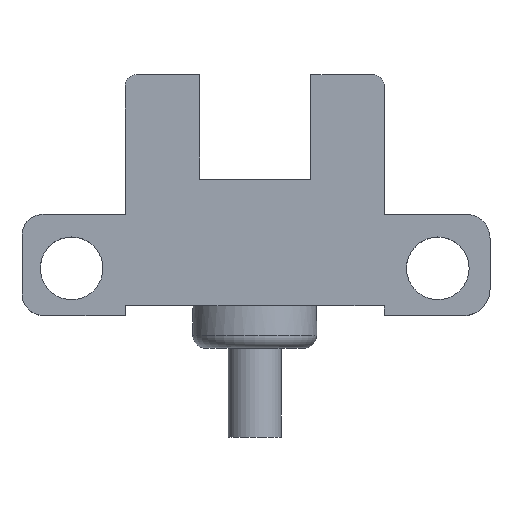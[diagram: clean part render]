
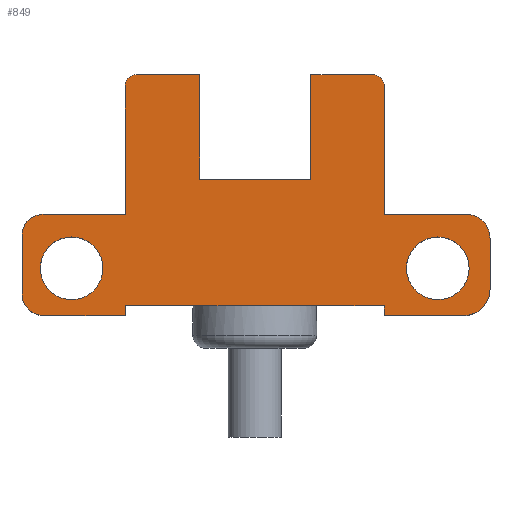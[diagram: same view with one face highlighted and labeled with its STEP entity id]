
A CAD part, top view. The second image highlights one B-rep face of the part: STEP entity #849.
In plain terms, the highlighted planar face has unit normal (0, 0, 1).
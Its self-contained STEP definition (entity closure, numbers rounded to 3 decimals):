
#34=CIRCLE('',#873,0.572);
#36=CIRCLE('',#878,1.074);
#38=CIRCLE('',#882,1.114);
#40=CIRCLE('',#889,1.345);
#42=CIRCLE('',#893,1.207);
#44=CIRCLE('',#898,0.603);
#45=CIRCLE('',#900,1.6);
#47=CIRCLE('',#903,1.6);
#151=ORIENTED_EDGE('',*,*,#289,.T.);
#152=ORIENTED_EDGE('',*,*,#287,.T.);
#153=ORIENTED_EDGE('',*,*,#229,.T.);
#154=ORIENTED_EDGE('',*,*,#233,.T.);
#155=ORIENTED_EDGE('',*,*,#236,.T.);
#156=ORIENTED_EDGE('',*,*,#239,.T.);
#157=ORIENTED_EDGE('',*,*,#242,.T.);
#158=ORIENTED_EDGE('',*,*,#245,.T.);
#159=ORIENTED_EDGE('',*,*,#248,.T.);
#160=ORIENTED_EDGE('',*,*,#251,.T.);
#161=ORIENTED_EDGE('',*,*,#254,.T.);
#162=ORIENTED_EDGE('',*,*,#257,.T.);
#163=ORIENTED_EDGE('',*,*,#260,.T.);
#164=ORIENTED_EDGE('',*,*,#262,.T.);
#165=ORIENTED_EDGE('',*,*,#221,.T.);
#166=ORIENTED_EDGE('',*,*,#293,.T.);
#167=ORIENTED_EDGE('',*,*,#226,.T.);
#168=ORIENTED_EDGE('',*,*,#265,.T.);
#169=ORIENTED_EDGE('',*,*,#268,.T.);
#170=ORIENTED_EDGE('',*,*,#271,.T.);
#171=ORIENTED_EDGE('',*,*,#274,.T.);
#172=ORIENTED_EDGE('',*,*,#277,.T.);
#173=ORIENTED_EDGE('',*,*,#280,.T.);
#174=ORIENTED_EDGE('',*,*,#283,.T.);
#175=ORIENTED_EDGE('',*,*,#286,.T.);
#176=ORIENTED_EDGE('',*,*,#292,.T.);
#221=EDGE_CURVE('',#304,#303,#358,.T.);
#226=EDGE_CURVE('',#305,#308,#362,.T.);
#229=EDGE_CURVE('',#312,#311,#365,.T.);
#233=EDGE_CURVE('',#311,#314,#369,.T.);
#236=EDGE_CURVE('',#314,#316,#372,.T.);
#239=EDGE_CURVE('',#316,#318,#375,.T.);
#242=EDGE_CURVE('',#318,#320,#34,.T.);
#245=EDGE_CURVE('',#320,#322,#379,.T.);
#248=EDGE_CURVE('',#322,#324,#382,.T.);
#251=EDGE_CURVE('',#324,#326,#36,.T.);
#254=EDGE_CURVE('',#326,#328,#386,.T.);
#257=EDGE_CURVE('',#328,#330,#38,.T.);
#260=EDGE_CURVE('',#330,#332,#390,.T.);
#262=EDGE_CURVE('',#332,#304,#392,.T.);
#265=EDGE_CURVE('',#308,#334,#395,.T.);
#268=EDGE_CURVE('',#334,#336,#398,.T.);
#271=EDGE_CURVE('',#336,#338,#40,.T.);
#274=EDGE_CURVE('',#338,#340,#402,.T.);
#277=EDGE_CURVE('',#340,#342,#42,.T.);
#280=EDGE_CURVE('',#342,#344,#406,.T.);
#283=EDGE_CURVE('',#344,#346,#409,.T.);
#286=EDGE_CURVE('',#346,#348,#44,.T.);
#287=EDGE_CURVE('',#349,#349,#45,.T.);
#289=EDGE_CURVE('',#351,#351,#47,.T.);
#292=EDGE_CURVE('',#348,#312,#412,.T.);
#293=EDGE_CURVE('',#303,#305,#413,.T.);
#303=VERTEX_POINT('',#1103);
#304=VERTEX_POINT('',#1105);
#305=VERTEX_POINT('',#1109);
#308=VERTEX_POINT('',#1114);
#311=VERTEX_POINT('',#1121);
#312=VERTEX_POINT('',#1123);
#314=VERTEX_POINT('',#1129);
#316=VERTEX_POINT('',#1135);
#318=VERTEX_POINT('',#1141);
#320=VERTEX_POINT('',#1147);
#322=VERTEX_POINT('',#1153);
#324=VERTEX_POINT('',#1159);
#326=VERTEX_POINT('',#1165);
#328=VERTEX_POINT('',#1171);
#330=VERTEX_POINT('',#1177);
#332=VERTEX_POINT('',#1183);
#334=VERTEX_POINT('',#1192);
#336=VERTEX_POINT('',#1198);
#338=VERTEX_POINT('',#1204);
#340=VERTEX_POINT('',#1210);
#342=VERTEX_POINT('',#1216);
#344=VERTEX_POINT('',#1222);
#346=VERTEX_POINT('',#1228);
#348=VERTEX_POINT('',#1234);
#349=VERTEX_POINT('',#1238);
#351=VERTEX_POINT('',#1243);
#358=LINE('',#1104,#416);
#362=LINE('',#1115,#420);
#365=LINE('',#1122,#423);
#369=LINE('',#1130,#427);
#372=LINE('',#1136,#430);
#375=LINE('',#1142,#433);
#379=LINE('',#1154,#437);
#382=LINE('',#1160,#440);
#386=LINE('',#1172,#444);
#390=LINE('',#1184,#448);
#392=LINE('',#1187,#450);
#395=LINE('',#1193,#453);
#398=LINE('',#1199,#456);
#402=LINE('',#1211,#460);
#406=LINE('',#1223,#464);
#409=LINE('',#1229,#467);
#412=LINE('',#1248,#470);
#413=LINE('',#1250,#471);
#416=VECTOR('',#928,1000.);
#420=VECTOR('',#936,1000.);
#423=VECTOR('',#941,1000.);
#427=VECTOR('',#947,1000.);
#430=VECTOR('',#952,1000.);
#433=VECTOR('',#957,1000.);
#437=VECTOR('',#969,1000.);
#440=VECTOR('',#974,1000.);
#444=VECTOR('',#986,1000.);
#448=VECTOR('',#998,1000.);
#450=VECTOR('',#1002,1000.);
#453=VECTOR('',#1007,1000.);
#456=VECTOR('',#1012,1000.);
#460=VECTOR('',#1024,1000.);
#464=VECTOR('',#1036,1000.);
#467=VECTOR('',#1041,1000.);
#470=VECTOR('',#1064,1000.);
#471=VECTOR('',#1067,1000.);
#500=EDGE_LOOP('',(#151));
#501=EDGE_LOOP('',(#152));
#502=EDGE_LOOP('',(#153,#154,#155,#156,#157,#158,#159,#160,#161,#162,#163,
#164,#165,#166,#167,#168,#169,#170,#171,#172,#173,#174,#175,#176));
#544=FACE_BOUND('',#500,.T.);
#545=FACE_BOUND('',#501,.T.);
#546=FACE_BOUND('',#502,.T.);
#578=PLANE('',#906);
#849=ADVANCED_FACE('',(#544,#545,#546),#578,.T.);
#873=AXIS2_PLACEMENT_3D('',#1148,#963,#964);
#878=AXIS2_PLACEMENT_3D('',#1166,#980,#981);
#882=AXIS2_PLACEMENT_3D('',#1178,#992,#993);
#889=AXIS2_PLACEMENT_3D('',#1205,#1018,#1019);
#893=AXIS2_PLACEMENT_3D('',#1217,#1030,#1031);
#898=AXIS2_PLACEMENT_3D('',#1235,#1047,#1048);
#900=AXIS2_PLACEMENT_3D('',#1237,#1051,#1052);
#903=AXIS2_PLACEMENT_3D('',#1242,#1057,#1058);
#906=AXIS2_PLACEMENT_3D('',#1249,#1065,#1066);
#928=DIRECTION('',(1.,0.,0.));
#936=DIRECTION('',(1.,0.,0.));
#941=DIRECTION('',(0.,-1.,0.));
#947=DIRECTION('',(-1.,0.,0.));
#952=DIRECTION('',(0.,1.,0.));
#957=DIRECTION('',(-1.,0.,0.));
#963=DIRECTION('',(0.,0.,1.));
#964=DIRECTION('',(1.,0.,0.));
#969=DIRECTION('',(0.,-1.,0.));
#974=DIRECTION('',(-1.,0.,0.));
#980=DIRECTION('',(0.,0.,1.));
#981=DIRECTION('',(1.,0.,0.));
#986=DIRECTION('',(0.,-1.,0.));
#992=DIRECTION('',(0.,0.,1.));
#993=DIRECTION('',(1.,0.,0.));
#998=DIRECTION('',(1.,0.,0.));
#1002=DIRECTION('',(0.,1.,0.));
#1007=DIRECTION('',(0.,-1.,0.));
#1012=DIRECTION('',(1.,0.,0.));
#1018=DIRECTION('',(0.,0.,1.));
#1019=DIRECTION('',(-1.,0.,0.));
#1024=DIRECTION('',(0.,1.,0.));
#1030=DIRECTION('',(0.,0.,1.));
#1031=DIRECTION('',(1.,0.,0.));
#1036=DIRECTION('',(-1.,0.,0.));
#1041=DIRECTION('',(0.,1.,0.));
#1047=DIRECTION('',(0.,0.,1.));
#1048=DIRECTION('',(-1.,0.,0.));
#1051=DIRECTION('',(0.,0.,-1.));
#1052=DIRECTION('',(1.,0.,0.));
#1057=DIRECTION('',(0.,0.,-1.));
#1058=DIRECTION('',(1.,0.,0.));
#1064=DIRECTION('',(-1.,0.,0.));
#1065=DIRECTION('',(0.,0.,1.));
#1066=DIRECTION('',(1.,0.,0.));
#1067=DIRECTION('',(1.,0.,0.));
#1103=CARTESIAN_POINT('',(-13.014,-5.648,3.));
#1104=CARTESIAN_POINT('',(-18.631,-5.648,3.));
#1105=CARTESIAN_POINT('',(-18.631,-5.648,3.));
#1109=CARTESIAN_POINT('',(-11.016,-5.648,3.));
#1114=CARTESIAN_POINT('',(-5.4,-5.648,3.));
#1115=CARTESIAN_POINT('',(-18.631,-5.648,3.));
#1121=CARTESIAN_POINT('',(-9.146,0.821,3.));
#1122=CARTESIAN_POINT('',(-9.146,6.15,3.));
#1123=CARTESIAN_POINT('',(-9.146,6.15,3.));
#1129=CARTESIAN_POINT('',(-14.815,0.821,3.));
#1130=CARTESIAN_POINT('',(-9.146,0.821,3.));
#1135=CARTESIAN_POINT('',(-14.815,6.15,3.));
#1136=CARTESIAN_POINT('',(-14.815,0.821,3.));
#1141=CARTESIAN_POINT('',(-18.059,6.15,3.));
#1142=CARTESIAN_POINT('',(-18.059,6.15,3.));
#1147=CARTESIAN_POINT('',(-18.631,5.578,3.));
#1148=CARTESIAN_POINT('',(-18.059,5.578,3.));
#1153=CARTESIAN_POINT('',(-18.631,-0.983,3.));
#1154=CARTESIAN_POINT('',(-18.631,5.578,3.));
#1159=CARTESIAN_POINT('',(-22.826,-0.983,3.));
#1160=CARTESIAN_POINT('',(-18.631,-0.983,3.));
#1165=CARTESIAN_POINT('',(-23.9,-2.057,3.));
#1166=CARTESIAN_POINT('',(-22.826,-2.057,3.));
#1171=CARTESIAN_POINT('',(-23.9,-5.036,3.));
#1172=CARTESIAN_POINT('',(-23.9,-5.036,3.));
#1177=CARTESIAN_POINT('',(-22.786,-6.15,3.));
#1178=CARTESIAN_POINT('',(-22.786,-5.036,3.));
#1183=CARTESIAN_POINT('',(-18.631,-6.15,3.));
#1184=CARTESIAN_POINT('',(-18.631,-6.15,3.));
#1187=CARTESIAN_POINT('',(-18.631,-6.15,3.));
#1192=CARTESIAN_POINT('',(-5.4,-6.15,3.));
#1193=CARTESIAN_POINT('',(-5.4,-5.648,3.));
#1198=CARTESIAN_POINT('',(-1.345,-6.15,3.));
#1199=CARTESIAN_POINT('',(-1.345,-6.15,3.));
#1204=CARTESIAN_POINT('',(0.,-4.805,3.));
#1205=CARTESIAN_POINT('',(-1.345,-4.805,3.));
#1210=CARTESIAN_POINT('',(0.,-2.19,3.));
#1211=CARTESIAN_POINT('',(0.,-2.19,3.));
#1216=CARTESIAN_POINT('',(-1.207,-0.983,3.));
#1217=CARTESIAN_POINT('',(-1.207,-2.19,3.));
#1222=CARTESIAN_POINT('',(-5.4,-0.983,3.));
#1223=CARTESIAN_POINT('',(-5.4,-0.983,3.));
#1228=CARTESIAN_POINT('',(-5.4,5.547,3.));
#1229=CARTESIAN_POINT('',(-5.4,5.547,3.));
#1234=CARTESIAN_POINT('',(-6.003,6.15,3.));
#1235=CARTESIAN_POINT('',(-6.003,5.547,3.));
#1237=CARTESIAN_POINT('',(-21.365,-3.737,3.));
#1238=CARTESIAN_POINT('',(-19.765,-3.737,3.));
#1242=CARTESIAN_POINT('',(-2.665,-3.737,3.));
#1243=CARTESIAN_POINT('',(-1.065,-3.737,3.));
#1248=CARTESIAN_POINT('',(-9.146,6.15,3.));
#1249=CARTESIAN_POINT('',(-18.059,5.578,3.));
#1250=CARTESIAN_POINT('',(-18.631,-5.648,3.));
